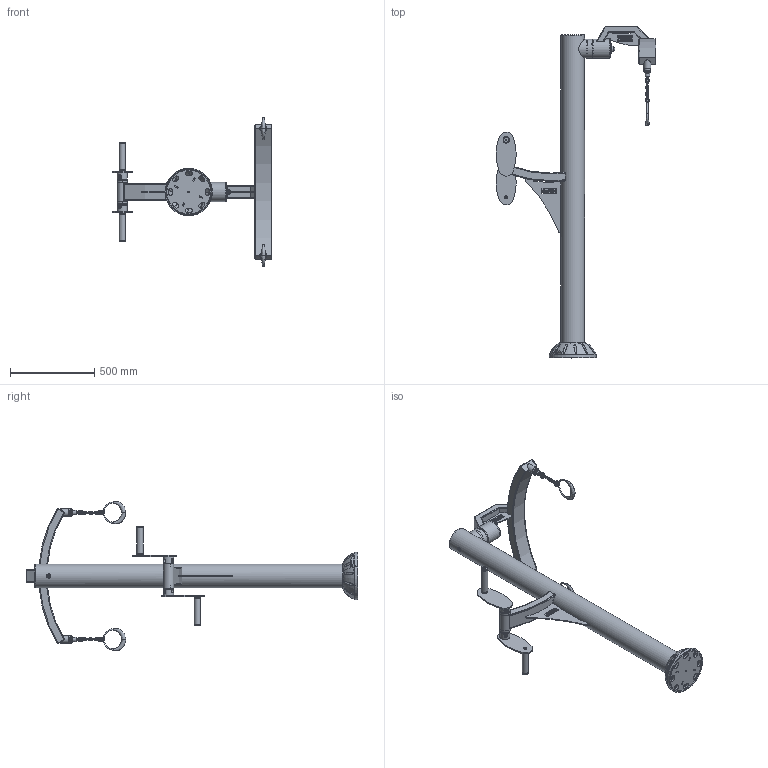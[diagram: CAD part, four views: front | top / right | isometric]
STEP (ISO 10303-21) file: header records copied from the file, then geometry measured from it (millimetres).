
FILE_DESCRIPTION (( 'STEP AP214' ), '1' );
FILE_NAME ('PMR0704 - PARAPENTE-TOURNIQUET PMR V1.3.STEP', '2016-11-30T21:53:25', ( '' ), ( '' ), 'SwSTEP 2.0', 'SolidWorks 2016', '' );
FILE_SCHEMA (( 'AUTOMOTIVE_DESIGN' ));
Length unit declared in the file: millimetre
Products named in the file (54): SC0304 - CACHE PLATINE ASS V4.0; SRR0816 - Roulement  6204 47-20-14; MANIV-S0213 - MANIVELLE TOURNIQUET V2.1; SC0306B - Base pour capuchon en nylon 36mm; AN2500 - Anneau SWO V2.0_L25; SA1414.A - Axe poignée Inox D.20mm L173,5 V2.1; TREBAL-S0204 - Tube balancier parapente V1.0; PLATINE BASE ASS V2.0; TROFAN-S0204A - Tube fixation anneau sur parapente V1.1; SP0605 - Poignee plastique D.33,7 L=170; SBA1602.A - Bague 6205 L144 V1.0; PU-TOLGOPL - Gousset platine V2.0; TOLROND107-61 - Rondelle pour tube D.107 percée d.61 V1.0; SC0306C - Petit capuchon en nylon 36 mm; PU-TOLPLAT - Platine base V1.0; SCH1806.A - Chapeau D135 V1.0; SB0104 - Vis Torx teton central M10x20; SCH1807 - Chapeau 96x46 V1.0; SR0433 - Rondelle plastique bouchon bague D60 d.25; PMR0704 - PARAPENTE-TOURNIQUET PMR V1.3; TOLMAN-PMR0703 - Manivelle poignée Tourniquet V2.0_V‚lo elliptique; SR0421 - Rondelle plate M8 diamètre Ext. 30 mm A2; TROCSSPP107-61 - Support simple pion plat D.107 d.61 V1.0; SBU1019 - Pion plat butée angulaire V1.1; SR0416 - Rondelle plate petite M10 A2 ext 22mm; TOLROND107-25 - Rondelle D.107 percée d.25 V1.0; SPC0818 - Palier à collerette 15x19x23-16 V1.0; SBA1603.A - Bague manivelle support goupille V2.0; SBU1025 - Butée cylindrique D.25 L=22 V1.0; SR0427 - Rondelle plastique bouchon bague D60 d.20; SBA1604.A - Bague support poignée V1.3; SB0112 - Vis Torx teton central M8x20_M8x20; PU-TRETRAV400 - Tube rectangulaire cintré R750 100x50x3 L400 V1.0; TROSM-114-103 - Tube D.114,3x3 L=103 V1.0; PALIER-S0204 - PALIER PARAPENTE ASS V1.1; SR0423 - Entretoise Nylon 20x28x7,5mm V1.0; SR0439 - Rondelle plastique plate d.21 D.37 廧.3; SBA1600 - Bague 6204 L107 V1.0; SF1101 - Ecrou frein M10 A2; SC0304 - Demi cache platine D140 V4.0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
Assembly tree (73 placements, depth 4):
  PMR0704 - PARAPENTE-TOURNIQUET PMR V1.3
    BATI-PMR004 - BATI PARAPENTE-TOURNIQUET PMR V1.2
      PLATINE BASE ASS V2.0
        PU-TOLPLAT - Platine base V1.0
        PU-TOLGOPL - Gousset platine V2.0  x4
      PALIER-S0204 - PALIER PARAPENTE ASS V1.1
        TROSM-114-103 - Tube D.114,3x3 L=103 V1.0
        TROCSDPP107-24 - Support double pions plat d.107 d.24 V1.0
        SA1421.A - Axe acier D.25mm L314 V1.1
        SC0306B - Base pour capuchon en nylon 36mm
        SC0306C - Petit capuchon en nylon 36 mm
        SF1101 - Ecrou frein M10 A2
        SR0416 - Rondelle plate petite M10 A2 ext 22mm
        TOLROND107-25 - Rondelle D.107 percée d.25 V1.0
        SBU1019 - Pion plat butée angulaire V1.1  x2
        TROSM-50-23 - Tube D.50x2,5 L=23 V1.0
      TROCB1900PATMR - Colonne base haute D.139,7x3 Ht1900 pour parapente-tourniquet PMR V1.0
      SCH1806.A - Chapeau D135 V1.0
      PU-TDRFIT225 - Tole renfort tube rectangulaire cintré R750 V1.0
      PU-TRETRAV400 - Tube rectangulaire cintré R750 100x50x3 L400 V1.0
      SBA1602.A - Bague 6205 L144 V1.0
    BALAN-S0204 - BALANCIER PARAPENTE V2.0
      TROCSSPP107-61 - Support simple pion plat D.107 d.61 V1.0
      SBA1600 - Bague 6204 L107 V1.0
      TOLROND107-61 - Rondelle pour tube D.107 percée d.61 V1.0
      TROSM-114-103 - Tube D.114,3x3 L=103 V1.0
      SRR0816 - Roulement  6204 47-20-14  x2
      SR0427 - Rondelle plastique bouchon bague D60 d.20
      PU-TRETRAV840 - Tube rectangulaire cintré R750 100x50x3 L840 V1.0
      TDRFIT-S0204 - Tole renfort Fitpark Parapente V1.0
      TROFAN-S0204A - Tube fixation anneau sur parapente V1.1  x2
      TREBAL-S0204 - Tube balancier parapente V1.0
      SCH1807 - Chapeau 96x46 V1.0  x2
      SBU1019 - Pion plat butée angulaire V1.1
      TOLROND36-M10 - Rondelle D36 M10 V1.0  x2
      SR0439 - Rondelle plastique plate d.21 D.37 廧.3  x2
      AN2500 - Anneau SWO V2.0_L25  x2
    SC0304 - CACHE PLATINE ASS V4.0
      SC0304 - Demi cache platine D140 V4.0
      SB0112 - Vis Torx teton central M8x20_M8x20  x2
    MANIV-S0213 - MANIVELLE TOURNIQUET V2.1  x2
      TOLMAN-PMR0703 - Manivelle poignée Tourniquet V2.0_V‚lo elliptique
      SBA1603.A - Bague manivelle support goupille V2.0
      SA1440 - Goupille avec plat D.15 V1.0
      SA1414.A - Axe poignée Inox D.20mm L173,5 V2.1
      SR0423 - Entretoise Nylon 20x28x7,5mm V1.0
      SBA1604.A - Bague support poignée V1.3
      SPC0818 - Palier à collerette 15x19x23-16 V1.0
      SR0421 - Rondelle plate M8 diamètre Ext. 30 mm A2
      SB0112 - Vis Torx teton central M8x20_M8x20
      SP0605 - Poignee plastique D.33,7 L=170
      SR0416 - Rondelle plate petite M10 A2 ext 22mm
      SB0104 - Vis Torx teton central M10x20
      SR0410 - Rondelle Grower M10 A2
    SA1411.B - Axe articulation Inox 303 D25 L216 V3.1
    SRR0804 - Roulement 6205 52-25-15  x2
    SR0433 - Rondelle plastique bouchon bague D60 d.25  x2
    SBU1025 - Butée cylindrique D.25 L=22 V1.0  x2
Bounding box: 947.73 x 1970 x 887.18 mm (x, y, z)
Volume: 7602113.8 mm3; surface area: 3796309.6 mm2
Topology: 113 solids, 113 shells, 2294 faces, 5356 edges, 3344 vertices
Faces by surface type: plane 720, cylinder 691, bspline 464, torus 186, cone 157, sphere 76
Full cylindrical faces by diameter (mm): 1.8 x4, 2.64 x2, 6 x46, 6.5 x2, 6.647 x2, 6.8 x2, 6.95 x4, 8 x4, 8.25 x2, 8.3 x2, 8.376 x2, 8.5 x6, 9.3 x2, 10 x10, 10.5 x9, 10.8 x2, 11 x1, 15 x6, 15.3 x2, 16.7 x8, 17 x3, 18 x4, 19 x4, 19.3 x4, 20 x7, 20.2 x1, 21 x2, 22 x8, 22.6 x1, 23 x4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
Entity records: 124961 total; most frequent: CARTESIAN_POINT 89313, ORIENTED_EDGE 6532, DIRECTION 5865, EDGE_CURVE 3266, AXIS2_PLACEMENT_3D 2336, VERTEX_POINT 2234, EDGE_LOOP 2128, FACE_OUTER_BOUND 1782
